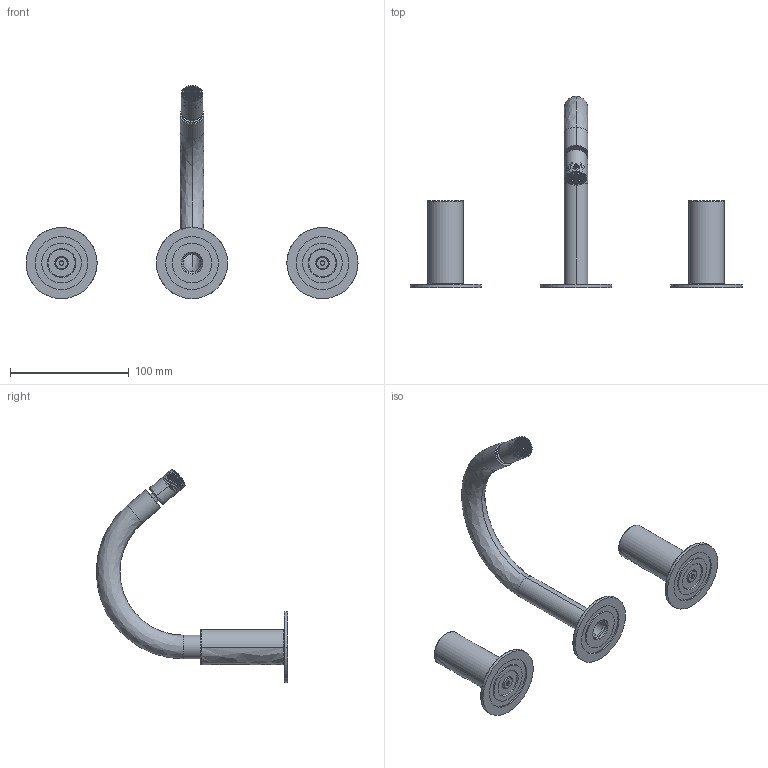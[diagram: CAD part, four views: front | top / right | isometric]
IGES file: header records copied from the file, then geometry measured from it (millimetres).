
Start section:  PTC IGES file: 12104.igs
Global section: file name: 12104.igs; native system: Creo Parametric by PTC Inc.; preprocessor: 2022014; author: carloff; organization: Unknown; date: 20250227.152710; units: millimetre
Bounding box: 280 x 161.5 x 179.89 mm (x, y, z)
Surface area: 85990.4 mm2 (no closed solid volume)
Topology: 0 solids, 0 shells, 3170 faces, 19463 edges, 19430 vertices
Faces by surface type: bspline 2302, revolution 865, extrusion 3
